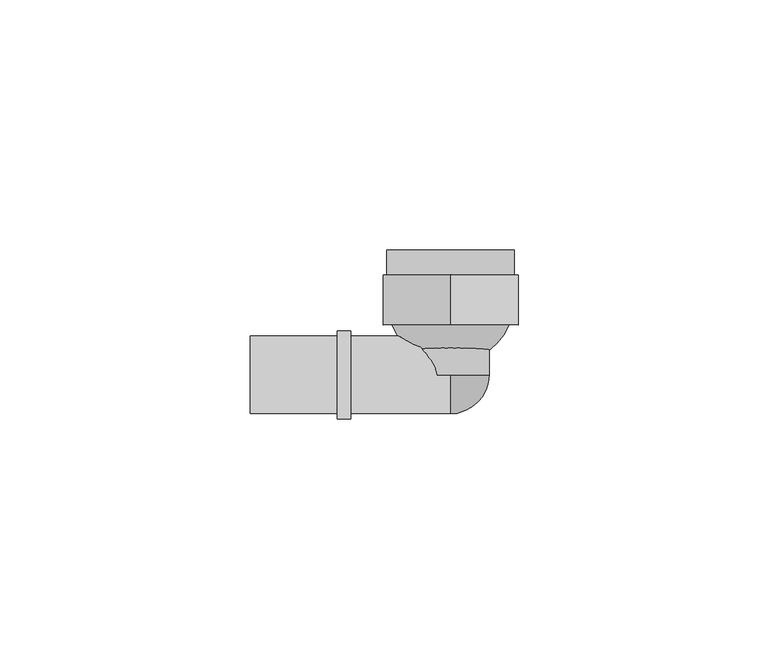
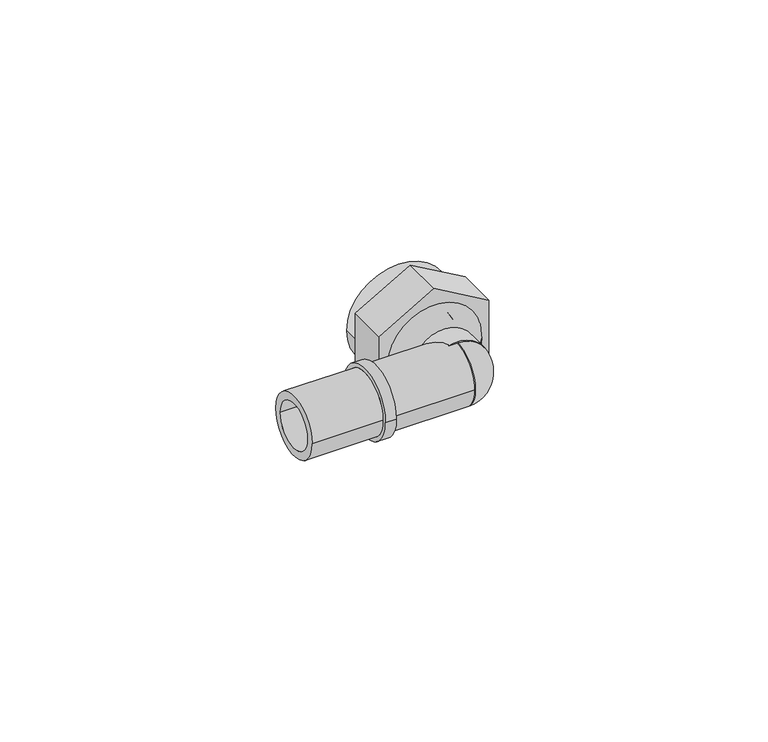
"""IFC4 building model written with IfcOpenShell, lengths in millimetres: pipe fitting geometry, FASTLOC_Elbow with female thread LX : FSL A internal PL."""

from ifc_helpers import new_model, si_unit, point, frame, origin, origin_2d, place, context, project, spatial, polyline, circle_curve, ellipse_curve, trimmed, segment, composite_curve, outline, extrude, source, transform, mapped, element, save
from ifc_brep_helpers import plane_surface, cylinder_surface, revolved_surface, advanced_brep


def pipe_fitting_253e9152(model_context):
    return source(origin(), model_context, "Body", "SolidModel", [
        extrude(outline(composite_curve([segment(trimmed(circle_curve(origin_2d(), 7.75), [point((0.0, -7.75))], [point((0.0, 7.75))], False, "CARTESIAN"), True, "CONTINUOUS"), segment(trimmed(circle_curve(origin_2d(), 7.75), [point((0.0, 7.75))], [point((0.0, -7.75))], False, "CARTESIAN"), True, "CONTINUOUS")], self_intersect=False), holes=[composite_curve([segment(trimmed(circle_curve(origin_2d(), 5.75), [point((0.0, -5.75))], [point((0.0, 5.75))], True, "CARTESIAN"), True, "CONTINUOUS"), segment(trimmed(circle_curve(origin_2d(), 5.75), [point((0.0, 5.75))], [point((0.0, -5.75))], True, "CARTESIAN"), True, "CONTINUOUS")], self_intersect=False)]), frame((0.0, 0.0, 0.0), z_axis=(0.0, 1.0, 0.0), x_axis=(0.0, 0.0, 1.0)), (0.0, 0.0, 1.0), 10.0),
        extrude(outline(polyline([(-7.7942286, 13.5), (7.7942286, 13.5), (15.5884573, 0.0), (7.7942286, -13.5), (-7.7942286, -13.5), (-15.5884573, 0.0), (-7.7942286, 13.5)])), frame((0.0, 10.0, 0.0), z_axis=(0.0, 1.0, 0.0), x_axis=(0.0, 0.0, 1.0)), (0.0, 0.0, 1.0), 10.0),
        advanced_brep(
        [(0.0, 0.0, 7.75), (0.0, 0.0, 3.875), (0.0, -3.875, 0.0), (0.0, -7.75, 0.0), (0.0, 0.0, -7.75), (0.0, 0.0, -3.875)],
        [
            (0, 1),
            (1, 2, circle_curve(frame((0.0, 0.0, 0.0), z_axis=(1.0, 0.0, 0.0), x_axis=(0.0, 0.0, 1.0)), 3.875)),
            (2, 3),
            (3, 0, circle_curve(frame((0.0, 0.0, 0.0), z_axis=(-1.0, 0.0, 0.0), x_axis=(0.0, 0.0, 1.0)), 7.75)),
            (4, 3, circle_curve(frame((0.0, 0.0, 0.0), z_axis=(-1.0, 0.0, 0.0), x_axis=(0.0, 0.0, -1.0)), 7.75)),
            (2, 5, circle_curve(frame((0.0, 0.0, 0.0), z_axis=(1.0, 0.0, 0.0), x_axis=(0.0, 0.0, -1.0)), 3.875)),
            (5, 4),
            (5, 1, circle_curve(frame((0.0, 0.0, 0.0), z_axis=(0.0, -1.0, 0.0), x_axis=(0.0, 0.0, 1.0)), 3.875)),
            (0, 4, circle_curve(frame((0.0, 0.0, 0.0), z_axis=(0.0, 1.0, 0.0), x_axis=(0.0, 0.0, 1.0)), 7.75)),
        ],
        [
            plane_surface(frame((0.0, 0.0, 0.0), z_axis=(-1.0, 0.0, 0.0), x_axis=(0.0, 0.0, 1.0))),
            plane_surface(frame((0.0, 0.0, 0.0), z_axis=(-1.0, 0.0, 0.0), x_axis=(0.0, 0.0, -1.0))),
            plane_surface(frame((0.0, 0.0, 0.0), z_axis=(0.0, 1.0, 0.0), x_axis=(0.0, 0.0, 1.0))),
            revolved_surface(trimmed(ellipse_curve(frame((0.0, 0.0, 0.0), z_axis=(1.0, 0.0, 0.0), x_axis=(0.0, 0.0, 1.0)), 3.875, 3.875), [point((0.0, 0.0, 3.875))], [point((0.0, -3.875, 0.0))], True, "CARTESIAN"), (0.0, 0.0, 0.0), (0.0, 1.0, 0.0)),
            revolved_surface(trimmed(ellipse_curve(frame((0.0, 0.0, 0.0), z_axis=(-1.0, 0.0, 0.0), x_axis=(0.0, 0.0, 1.0)), 7.75, 7.75), [point((0.0, -7.75, 0.0))], [point((0.0, 0.0, 7.75))], True, "CARTESIAN"), (0.0, 0.0, 0.0), (0.0, 1.0, 0.0)),
        ],
        [
            (0, [[1, 2, 3, 4]]),
            (1, [[5, -3, 6, 7]]),
            (2, [[8, -1, 9, -7]]),
            (3, [[-2, -8, -6]]),
            (4, [[-9, -4, -5]]),
        ],
    ),
        advanced_brep(
        [(-22.7, 7.75, 0.0), (-22.7, -7.75, 0.0), (-40.1, -7.75, 0.0), (-40.1, 7.75, 0.0), (-20.0, 8.8, 0.0), (-20.0, -8.8, 0.0), (-22.7, -8.8, 0.0), (-22.7, 8.8, 0.0), (0.0, 7.75, 0.0), (0.0, -7.75, 0.0), (-20.0, -7.75, 0.0), (-20.0, 7.75, 0.0), (-40.1, 5.75, 0.0), (-40.1, -5.75, 0.0), (0.0, -5.75, 0.0), (0.0, 5.75, 0.0)],
        [
            (0, 1, circle_curve(frame((-22.7, 0.0, 0.0), z_axis=(-1.0, 0.0, 0.0), x_axis=(0.0, -1.0, 0.0)), 7.75)),
            (1, 2),
            (2, 3, circle_curve(frame((-40.1, 0.0, 0.0), z_axis=(1.0, 0.0, 0.0), x_axis=(0.0, -1.0, 0.0)), 7.75)),
            (3, 0),
            (4, 5, circle_curve(frame((-20.0, 0.0, 0.0), z_axis=(-1.0, 0.0, 0.0), x_axis=(0.0, -1.0, 0.0)), 8.8)),
            (5, 6),
            (6, 7, circle_curve(frame((-22.7, 0.0, 0.0), z_axis=(1.0, 0.0, 0.0), x_axis=(0.0, -1.0, 0.0)), 8.8)),
            (7, 4),
            (8, 9, circle_curve(frame((0.0, 0.0, 0.0), z_axis=(-1.0, 0.0, 0.0), x_axis=(0.0, -1.0, 0.0)), 7.75)),
            (9, 10),
            (10, 11, circle_curve(frame((-20.0, 0.0, 0.0), z_axis=(1.0, 0.0, 0.0), x_axis=(0.0, -1.0, 0.0)), 7.75)),
            (11, 8),
            (12, 13, circle_curve(frame((-40.1, 0.0, 0.0), z_axis=(-1.0, 0.0, 0.0), x_axis=(0.0, -1.0, 0.0)), 5.75)),
            (13, 14),
            (14, 15, circle_curve(frame((0.0, 0.0, 0.0), z_axis=(1.0, 0.0, 0.0), x_axis=(0.0, -1.0, 0.0)), 5.75)),
            (15, 12),
            (2, 3, circle_curve(frame((-40.1, 0.0, 0.0), z_axis=(-1.0, 0.0, 0.0), x_axis=(0.0, 1.0, 0.0)), 7.75)),
            (12, 13, circle_curve(frame((-40.1, 0.0, 0.0), z_axis=(1.0, 0.0, 0.0), x_axis=(0.0, 1.0, 0.0)), 5.75)),
            (1, 0, circle_curve(frame((-22.7, 0.0, 0.0), z_axis=(-1.0, 0.0, 0.0), x_axis=(0.0, 1.0, 0.0)), 7.75)),
            (6, 7, circle_curve(frame((-22.7, 0.0, 0.0), z_axis=(-1.0, 0.0, 0.0), x_axis=(0.0, 1.0, 0.0)), 8.8)),
            (5, 4, circle_curve(frame((-20.0, 0.0, 0.0), z_axis=(-1.0, 0.0, 0.0), x_axis=(0.0, 1.0, 0.0)), 8.8)),
            (10, 11, circle_curve(frame((-20.0, 0.0, 0.0), z_axis=(-1.0, 0.0, 0.0), x_axis=(0.0, 1.0, 0.0)), 7.75)),
            (9, 8, circle_curve(frame((0.0, 0.0, 0.0), z_axis=(-1.0, 0.0, 0.0), x_axis=(0.0, 1.0, 0.0)), 7.75)),
            (14, 15, circle_curve(frame((0.0, 0.0, 0.0), z_axis=(-1.0, 0.0, 0.0), x_axis=(0.0, 1.0, 0.0)), 5.75)),
        ],
        [
            cylinder_surface(frame((0.0, 0.0, 0.0), z_axis=(1.0, 0.0, 0.0), x_axis=(0.0, -1.0, 0.0)), 7.75),
            cylinder_surface(frame((0.0, 0.0, 0.0), z_axis=(1.0, 0.0, 0.0), x_axis=(0.0, -1.0, 0.0)), 8.8),
            revolved_surface(polyline([(0.0, -5.75, 0.0), (-40.1, -5.75, 0.0)]), (0.0, 0.0, 0.0), (1.0, 0.0, 0.0)),
            plane_surface(frame((-40.1, 0.0, 0.0), z_axis=(-1.0, 0.0, 0.0), x_axis=(0.0, 1.0, 0.0))),
            cylinder_surface(frame((0.0, 0.0, 0.0), z_axis=(1.0, 0.0, 0.0), x_axis=(0.0, 1.0, 0.0)), 7.75),
            plane_surface(frame((-22.7, 0.0, 0.0), z_axis=(-1.0, 0.0, 0.0), x_axis=(0.0, 1.0, 0.0))),
            cylinder_surface(frame((0.0, 0.0, 0.0), z_axis=(1.0, 0.0, 0.0), x_axis=(0.0, 1.0, 0.0)), 8.8),
            plane_surface(frame((-20.0, 0.0, 0.0), z_axis=(1.0, 0.0, 0.0), x_axis=(0.0, 1.0, 0.0))),
            plane_surface(frame((0.0, 0.0, 0.0), z_axis=(1.0, 0.0, 0.0), x_axis=(0.0, 1.0, 0.0))),
            revolved_surface(polyline([(0.0, 5.75, 0.0), (-40.1, 5.75, 0.0)]), (0.0, 0.0, 0.0), (1.0, 0.0, 0.0)),
        ],
        [
            (0, [[1, 2, 3, 4]]),
            (1, [[5, 6, 7, 8]]),
            (0, [[9, 10, 11, 12]]),
            (2, [[13, 14, 15, 16]]),
            (3, [[17, -3], [18, -13]]),
            (4, [[19, -4, -17, -2]]),
            (5, [[20, -7], [-19, -1]]),
            (6, [[21, -8, -20, -6]]),
            (7, [[-21, -5], [22, -11]]),
            (4, [[23, -12, -22, -10]]),
            (8, [[-23, -9], [24, -15]]),
            (9, [[-18, -16, -24, -14]]),
        ],
    ),
        advanced_brep(
        [(0.5, 2.2598077, 0.0), (-0.5, 2.2598077, 0.0), (-12.75, 15.0, 0.0), (12.75, 15.0, 0.0), (0.5, 7.5166852, 0.0), (-0.5, 7.5166852, 0.0), (7.5, 15.0, 0.0), (-7.5, 15.0, 0.0), (7.5, 25.0, 0.0), (-7.5, 25.0, 0.0), (-12.75, 25.0, 0.0), (12.75, 25.0, 0.0)],
        [
            (0, 1, circle_curve(frame((0.0, 2.2598077, 0.0), z_axis=(0.0, 1.0, 0.0), x_axis=(-1.0, 0.0, 0.0)), 0.5)),
            (1, 2, circle_curve(frame((0.0, 15.0, 0.0), z_axis=(0.0, 0.0, -1.0), x_axis=(0.0, 1.0, 0.0)), 12.75)),
            (2, 3, circle_curve(frame((0.0, 15.0, 0.0), z_axis=(0.0, -1.0, 0.0), x_axis=(-1.0, 0.0, 0.0)), 12.75)),
            (3, 0, circle_curve(frame((0.0, 15.0, 0.0), z_axis=(0.0, 0.0, -1.0), x_axis=(0.0, 1.0, 0.0)), 12.75)),
            (4, 5, circle_curve(frame((0.0, 7.5166852, 0.0), z_axis=(0.0, 1.0, 0.0), x_axis=(-1.0, 0.0, 0.0)), 0.5)),
            (5, 1),
            (0, 4),
            (6, 7, circle_curve(frame((0.0, 15.0, 0.0), z_axis=(0.0, 1.0, 0.0), x_axis=(-1.0, 0.0, 0.0)), 7.5)),
            (7, 5, circle_curve(frame((0.0, 15.0, 0.0), z_axis=(0.0, 0.0, 1.0), x_axis=(0.0, 1.0, 0.0)), 7.5)),
            (4, 6, circle_curve(frame((0.0, 15.0, 0.0), z_axis=(0.0, 0.0, 1.0), x_axis=(0.0, 1.0, 0.0)), 7.5)),
            (8, 9, circle_curve(frame((0.0, 25.0, 0.0), z_axis=(0.0, 1.0, 0.0), x_axis=(-1.0, 0.0, 0.0)), 7.5)),
            (9, 7),
            (6, 8),
            (2, 10),
            (10, 11, circle_curve(frame((0.0, 25.0, 0.0), z_axis=(0.0, -1.0, 0.0), x_axis=(-1.0, 0.0, 0.0)), 12.75)),
            (11, 3),
            (1, 0, circle_curve(frame((0.0, 2.2598077, 0.0), z_axis=(0.0, 1.0, 0.0), x_axis=(1.0, 0.0, 0.0)), 0.5)),
            (3, 2, circle_curve(frame((0.0, 15.0, 0.0), z_axis=(0.0, -1.0, 0.0), x_axis=(1.0, 0.0, 0.0)), 12.75)),
            (5, 4, circle_curve(frame((0.0, 7.5166852, 0.0), z_axis=(0.0, 1.0, 0.0), x_axis=(1.0, 0.0, 0.0)), 0.5)),
            (7, 6, circle_curve(frame((0.0, 15.0, 0.0), z_axis=(0.0, 1.0, 0.0), x_axis=(1.0, 0.0, 0.0)), 7.5)),
            (9, 8, circle_curve(frame((0.0, 25.0, 0.0), z_axis=(0.0, 1.0, 0.0), x_axis=(1.0, 0.0, 0.0)), 7.5)),
            (10, 11, circle_curve(frame((0.0, 25.0, 0.0), z_axis=(0.0, 1.0, 0.0), x_axis=(1.0, 0.0, 0.0)), 12.75)),
        ],
        [
            revolved_surface(trimmed(ellipse_curve(frame((0.0, 15.0, 0.0), z_axis=(0.0, 0.0, 1.0), x_axis=(0.0, 1.0, 0.0)), 12.75, 12.75), [point((-12.75, 15.0, 0.0))], [point((-0.5, 2.2598077, 0.0))], True, "CARTESIAN"), (0.0, 10.0, 0.0), (0.0, -1.0, 0.0)),
            revolved_surface(polyline([(-0.5, 2.2598076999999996, 0.0), (-0.5, 7.5166852, 0.0)]), (0.0, 10.0, 0.0), (0.0, -1.0, 0.0)),
            revolved_surface(trimmed(ellipse_curve(frame((0.0, 15.0, 0.0), z_axis=(0.0, 0.0, -1.0), x_axis=(0.0, 1.0, 0.0)), 7.5, 7.5), [point((-0.5, 7.5166852, 0.0))], [point((-7.5, 15.0, 0.0))], True, "CARTESIAN"), (0.0, 10.0, 0.0), (0.0, -1.0, 0.0)),
            revolved_surface(polyline([(-7.5, 15.0, 0.0), (-7.5, 25.0, 0.0)]), (0.0, 10.0, 0.0), (0.0, -1.0, 0.0)),
            cylinder_surface(frame((0.0, 10.0, 0.0), z_axis=(0.0, -1.0, 0.0), x_axis=(-1.0, 0.0, 0.0)), 12.75),
            revolved_surface(trimmed(ellipse_curve(frame((0.0, 15.0, 0.0), z_axis=(0.0, 0.0, -1.0), x_axis=(0.0, 1.0, 0.0)), 12.75, 12.75), [point((12.75, 15.0, 0.0))], [point((0.5, 2.2598077, 0.0))], True, "CARTESIAN"), (0.0, 10.0, 0.0), (0.0, -1.0, 0.0)),
            revolved_surface(polyline([(0.5, 2.2598076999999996, 0.0), (0.5, 7.5166852, 0.0)]), (0.0, 10.0, 0.0), (0.0, -1.0, 0.0)),
            revolved_surface(trimmed(ellipse_curve(frame((0.0, 15.0, 0.0), z_axis=(0.0, 0.0, 1.0), x_axis=(0.0, 1.0, 0.0)), 7.5, 7.5), [point((0.5, 7.5166852, 0.0))], [point((7.5, 15.0, 0.0))], True, "CARTESIAN"), (0.0, 10.0, 0.0), (0.0, -1.0, 0.0)),
            revolved_surface(polyline([(7.5, 15.0, 0.0), (7.5, 25.0, 0.0)]), (0.0, 10.0, 0.0), (0.0, -1.0, 0.0)),
            plane_surface(frame((0.0, 25.0, 0.0), z_axis=(0.0, 1.0, 0.0), x_axis=(1.0, 0.0, 0.0))),
            cylinder_surface(frame((0.0, 10.0, 0.0), z_axis=(0.0, -1.0, 0.0), x_axis=(1.0, 0.0, 0.0)), 12.75),
        ],
        [
            (0, [[1, 2, 3, 4]]),
            (1, [[5, 6, -1, 7]]),
            (2, [[8, 9, -5, 10]]),
            (3, [[11, 12, -8, 13]]),
            (4, [[-3, 14, 15, 16]]),
            (5, [[17, -4, 18, -2]]),
            (6, [[19, -7, -17, -6]]),
            (7, [[20, -10, -19, -9]]),
            (8, [[21, -13, -20, -12]]),
            (9, [[22, -15], [-21, -11]]),
            (10, [[-18, -16, -22, -14]]),
        ],
    ),
    ])


if __name__ == "__main__":
    model = new_model("IFC4")
    model_context = context("Model", 3, world=origin())
    ifc_project = project(units=[si_unit("LENGTHUNIT", "METRE", prefix="MILLI")], contexts=[model_context])
    site = spatial("IfcSite", under=ifc_project)
    building = spatial("IfcBuilding", under=site)
    placement = place(None, origin())
    pipe_fitting_shape = pipe_fitting_253e9152(model_context)
    element("IfcPipeFitting", 1, ObjectType="FASTLOC_Elbow with female thread LX : FSL A internal PL", at=placement, inside=building, context=model_context, shape_type="MappedRepresentation", body=[
        mapped(pipe_fitting_shape, transform((0.0, 0.0, 0.0), x_axis=(1.0, 0.0, 0.0), y_axis=(0.0, 1.0, 0.0), z_axis=(0.0, 0.0, 1.0))),
    ])
    save(model, "model.ifc")
